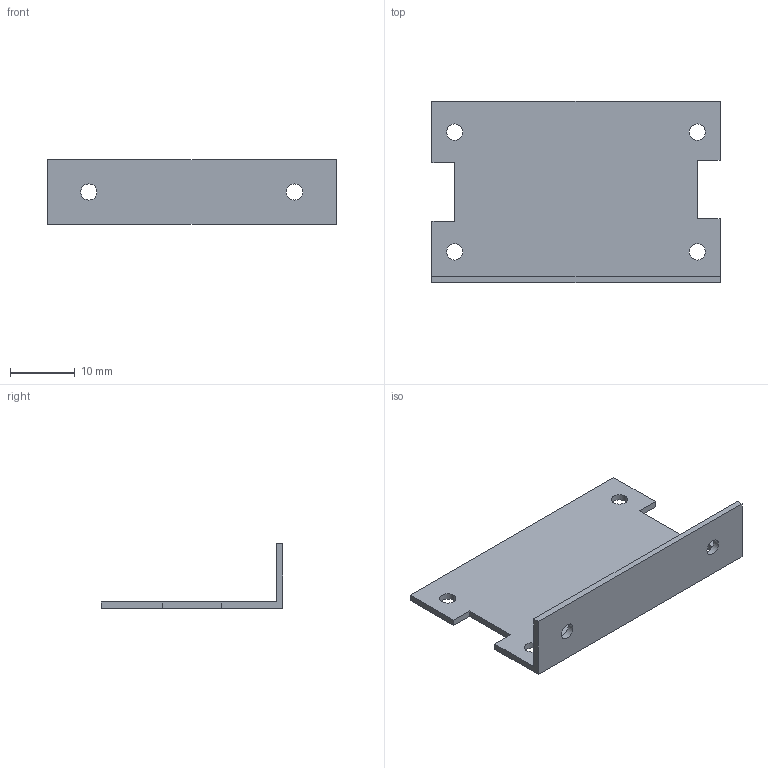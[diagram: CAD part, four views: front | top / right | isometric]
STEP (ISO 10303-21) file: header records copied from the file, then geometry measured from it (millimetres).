
FILE_DESCRIPTION(/* description */ (''),/* implementation_level */ '2;1');
FILE_NAME(/* name */ '/Users/leslieshaw/Desktop/servo_control_bracket.step',/* time_stamp */ '2018-08-30T10:32:34-07:00',/* author */ ('leslieshaw1023'),/* organization */ (''),/* preprocessor_version */ 'ST-DEVELOPER v17',/* originating_system */ 'Autodesk Translation Framework v7.1.0.215',/* authorisation */ '');
FILE_SCHEMA (('AUTOMOTIVE_DESIGN { 1 0 10303 214 3 1 1 }'));
Length unit declared in the file: millimetre
Products named in the file (1): motor control bracket v2
Bounding box: 44.45 x 28 x 10 mm (x, y, z)
Volume: 1552.2 mm3; surface area: 3328.4 mm2
Topology: 1 solids, 1 shells, 22 faces, 60 edges, 40 vertices
Faces by surface type: plane 16, cylinder 6
Full cylindrical faces by diameter (mm): 2.5 x6
Entity records: 753 total; most frequent: CARTESIAN_POINT 123, ORIENTED_EDGE 120, DIRECTION 118, EDGE_CURVE 60, LINE 48, VECTOR 48, VERTEX_POINT 40, AXIS2_PLACEMENT_3D 35
